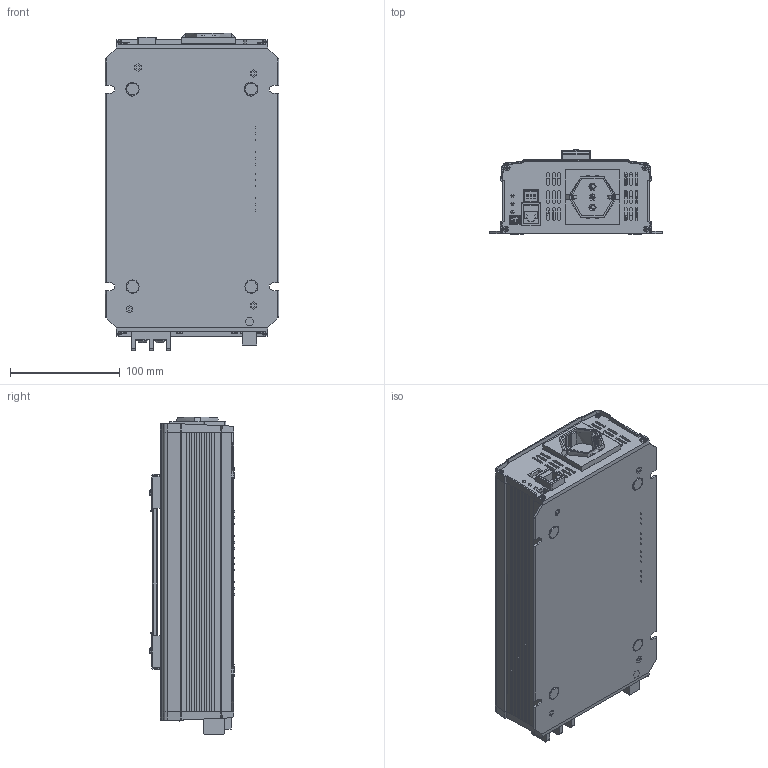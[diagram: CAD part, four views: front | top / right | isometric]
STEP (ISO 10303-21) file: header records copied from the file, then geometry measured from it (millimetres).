
FILE_DESCRIPTION(('Creo Elements/Direct Modeling STEP Export'),'2;1');
FILE_NAME('NTS-750EU.stp','2021-04-16T19:24:16',(''),(''),'PTC Creo Elements/Direct Modeling STEP processor for AP214 (Solid Model)','PTC Creo Elements/Direct Modeling 19.0A 04-Oct-2014 (C) Parametric Technology GmbH','');
FILE_SCHEMA(('AUTOMOTIVE_DESIGN { 1 0 10303 214 1 1 1 1 }'));
Length unit declared in the file: millimetre
Products named in the file (164): 上盖; 下盖; M3-6.5L; M3-6.5L.1; M3-6.5L.1.1; M3-6.5L.1.1.1; 77; CASE; 1XX3NTS-750-I-20201103.prt; 1XX3NTS-750-I; NTS-750面板; 19-30286-1312__w__.1.1.1.1; 19-30286-1312__w__.1.1.1; 19-30286-1312__w__.1; 19-30286-1312__w__.1.1; 装配2; 19-30281-0250__w__.2.1; 19-30281-0250__w__.2.1.1; 装配2.1; 19-30281-0250__w__.2.1.1.1; 19-30286-1312__w__.1.1.2; 19-30286-1312__w__.1.1.2.1; 装配2.1.1; 螺丝; C.2; C.3; C.1; A.ASM; MHS-2.PRT; _S___S_C_S_Y_S___X2_02C6_X0_O.PRT; _S_Y_S_Q_S___S__.PRT; A3.ASM; PCB_5.ASM; _S___S_G_S_NA_S___S_H_X2_02DC_X.PRT.1; _S___S_U_S_KX.ASM; JS100107_1.PRT; PCB2.ASM; PCB1.PRT; A2-351950.PRT; ALL.ASM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
Assembly tree (167 placements, depth 8):
  NTS-750
    E-08.欧插
      E-08_1.ASM
        E08B_SERIES1.PRT
        E08-4.PRT  x3
        E08_3.PRT  x2
        E08_001_SERIES_ASM.ASM
          E08_001_3.PRT
          E08_001_4.PRT
        E08-6.PRT
        E08_SERIES1.PRT
        E08-5.PRT
    1XX3NTS-750UK-O
    固纬把手
      174
      guwei1
      guwei1.1
    装配1
      1GG
        1GG4CU-SZ031.1
        1GG1HS-SZ135
        1GG4CU-SZ032.1
        1GG4CU-SZ032
        1GG4CU-SZ031
        1GG1HS-SZ133
          DDD.1
          DDD
          SZ133
      1HH2
        1HH2NTS-750
        1HH2-FR4
        1HH2283A
        1HH176x25.6x0.3
      MOS1
        p3
        温度开关
        TO220-1.2.2.2.1.1.1.1
        TO220-1.2.2.2.1.1.1
        TO220-1.2.2.2.1.1
        TO220-1.2.2.2.1
        TO220-1.2.2.2
        TO220-1.2.2
      MOS
        TO247.1.1
        TO247
        MS1
        MS1.1
        TO247.1
        TO247.1.1.1
        MS1.1.1.1
        MS1.1.1
        TO220-1.2.1.1
        TO220-1.2.1
        TO220-1.2.1.1.1
        TO220-1.2
      TF
      PAD
        FOOT_PAD_7_1.PRT.30
        FOOT_PAD_7_1.PRT.31
        FOOT_PAD_7_1.PRT
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Bounding box: 158 x 77.87 x 289.51 mm (x, y, z)
Topology: 122 solids, 128 shells, 5475 faces, 14216 edges, 8988 vertices
Faces by surface type: plane 3317, cylinder 1347, cone 311, bspline 231, torus 142, sphere 126, extrusion 1
Entity records: 194901 total; most frequent: CARTESIAN_POINT 57795, ORIENTED_EDGE 26579, DIRECTION 23778, EDGE_CURVE 13278, VECTOR 8722, LINE 8721, VERTEX_POINT 8515, AXIS2_PLACEMENT_3D 7528
